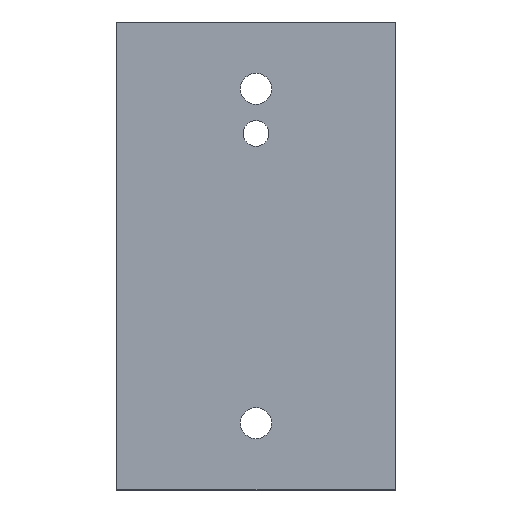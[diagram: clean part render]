
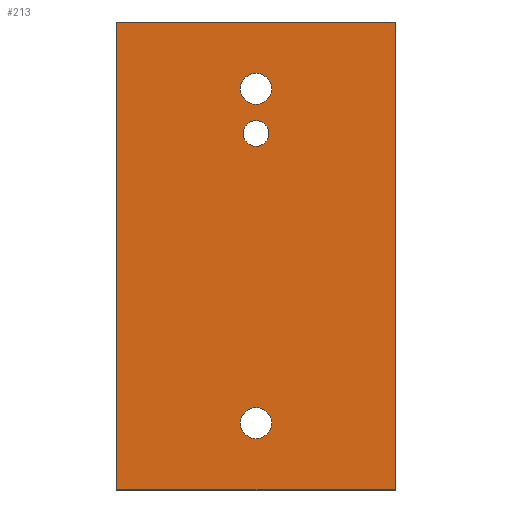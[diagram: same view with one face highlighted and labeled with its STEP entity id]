
A CAD part, top view. The second image highlights one B-rep face of the part: STEP entity #213.
In plain terms, the highlighted planar face has unit normal (0, 0, 1).
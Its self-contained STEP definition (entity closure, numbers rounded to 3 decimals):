
#24 = VERTEX_POINT('',#25);
#25 = CARTESIAN_POINT('',(-25.,-42.,6.));
#32 = PLANE('',#33);
#33 = AXIS2_PLACEMENT_3D('',#34,#35,#36);
#34 = CARTESIAN_POINT('',(-25.,-42.,0.));
#35 = DIRECTION('',(1.,0.,0.));
#36 = DIRECTION('',(0.,0.,1.));
#44 = PLANE('',#45);
#45 = AXIS2_PLACEMENT_3D('',#46,#47,#48);
#46 = CARTESIAN_POINT('',(-25.,-42.,0.));
#47 = DIRECTION('',(0.,1.,0.));
#48 = DIRECTION('',(0.,0.,1.));
#85 = VERTEX_POINT('',#86);
#86 = CARTESIAN_POINT('',(-25.,42.,6.));
#100 = PLANE('',#101);
#101 = AXIS2_PLACEMENT_3D('',#102,#103,#104);
#102 = CARTESIAN_POINT('',(-25.,42.,0.));
#103 = DIRECTION('',(0.,1.,0.));
#104 = DIRECTION('',(0.,0.,1.));
#112 = EDGE_CURVE('',#24,#85,#113,.T.);
#113 = SURFACE_CURVE('',#114,(#118,#125),.PCURVE_S1.);
#114 = LINE('',#115,#116);
#115 = CARTESIAN_POINT('',(-25.,-42.,6.));
#116 = VECTOR('',#117,1.);
#117 = DIRECTION('',(0.,1.,0.));
#118 = PCURVE('',#32,#119);
#119 = DEFINITIONAL_REPRESENTATION('',(#120),#124);
#120 = LINE('',#121,#122);
#121 = CARTESIAN_POINT('',(6.,0.));
#122 = VECTOR('',#123,1.);
#123 = DIRECTION('',(0.,-1.));
#124 = ( GEOMETRIC_REPRESENTATION_CONTEXT(2) 
PARAMETRIC_REPRESENTATION_CONTEXT() REPRESENTATION_CONTEXT('2D SPACE',''
  ) );
#125 = PCURVE('',#126,#131);
#126 = PLANE('',#127);
#127 = AXIS2_PLACEMENT_3D('',#128,#129,#130);
#128 = CARTESIAN_POINT('',(-25.,-42.,6.));
#129 = DIRECTION('',(0.,0.,1.));
#130 = DIRECTION('',(1.,0.,0.));
#131 = DEFINITIONAL_REPRESENTATION('',(#132),#136);
#132 = LINE('',#133,#134);
#133 = CARTESIAN_POINT('',(0.,0.));
#134 = VECTOR('',#135,1.);
#135 = DIRECTION('',(0.,1.));
#136 = ( GEOMETRIC_REPRESENTATION_CONTEXT(2) 
PARAMETRIC_REPRESENTATION_CONTEXT() REPRESENTATION_CONTEXT('2D SPACE',''
  ) );
#165 = EDGE_CURVE('',#24,#166,#168,.T.);
#166 = VERTEX_POINT('',#167);
#167 = CARTESIAN_POINT('',(25.,-42.,6.));
#168 = SURFACE_CURVE('',#169,(#173,#180),.PCURVE_S1.);
#169 = LINE('',#170,#171);
#170 = CARTESIAN_POINT('',(-25.,-42.,6.));
#171 = VECTOR('',#172,1.);
#172 = DIRECTION('',(1.,0.,0.));
#173 = PCURVE('',#44,#174);
#174 = DEFINITIONAL_REPRESENTATION('',(#175),#179);
#175 = LINE('',#176,#177);
#176 = CARTESIAN_POINT('',(6.,0.));
#177 = VECTOR('',#178,1.);
#178 = DIRECTION('',(0.,1.));
#179 = ( GEOMETRIC_REPRESENTATION_CONTEXT(2) 
PARAMETRIC_REPRESENTATION_CONTEXT() REPRESENTATION_CONTEXT('2D SPACE',''
  ) );
#180 = PCURVE('',#126,#181);
#181 = DEFINITIONAL_REPRESENTATION('',(#182),#186);
#182 = LINE('',#183,#184);
#183 = CARTESIAN_POINT('',(0.,0.));
#184 = VECTOR('',#185,1.);
#185 = DIRECTION('',(1.,0.));
#186 = ( GEOMETRIC_REPRESENTATION_CONTEXT(2) 
PARAMETRIC_REPRESENTATION_CONTEXT() REPRESENTATION_CONTEXT('2D SPACE',''
  ) );
#202 = PLANE('',#203);
#203 = AXIS2_PLACEMENT_3D('',#204,#205,#206);
#204 = CARTESIAN_POINT('',(25.,-42.,0.));
#205 = DIRECTION('',(1.,0.,0.));
#206 = DIRECTION('',(0.,0.,1.));
#213 = ADVANCED_FACE('',(#214,#262,#297,#332),#126,.T.);
#214 = FACE_BOUND('',#215,.T.);
#215 = EDGE_LOOP('',(#216,#217,#218,#241));
#216 = ORIENTED_EDGE('',*,*,#112,.F.);
#217 = ORIENTED_EDGE('',*,*,#165,.T.);
#218 = ORIENTED_EDGE('',*,*,#219,.T.);
#219 = EDGE_CURVE('',#166,#220,#222,.T.);
#220 = VERTEX_POINT('',#221);
#221 = CARTESIAN_POINT('',(25.,42.,6.));
#222 = SURFACE_CURVE('',#223,(#227,#234),.PCURVE_S1.);
#223 = LINE('',#224,#225);
#224 = CARTESIAN_POINT('',(25.,-42.,6.));
#225 = VECTOR('',#226,1.);
#226 = DIRECTION('',(0.,1.,0.));
#227 = PCURVE('',#126,#228);
#228 = DEFINITIONAL_REPRESENTATION('',(#229),#233);
#229 = LINE('',#230,#231);
#230 = CARTESIAN_POINT('',(50.,0.));
#231 = VECTOR('',#232,1.);
#232 = DIRECTION('',(0.,1.));
#233 = ( GEOMETRIC_REPRESENTATION_CONTEXT(2) 
PARAMETRIC_REPRESENTATION_CONTEXT() REPRESENTATION_CONTEXT('2D SPACE',''
  ) );
#234 = PCURVE('',#202,#235);
#235 = DEFINITIONAL_REPRESENTATION('',(#236),#240);
#236 = LINE('',#237,#238);
#237 = CARTESIAN_POINT('',(6.,0.));
#238 = VECTOR('',#239,1.);
#239 = DIRECTION('',(0.,-1.));
#240 = ( GEOMETRIC_REPRESENTATION_CONTEXT(2) 
PARAMETRIC_REPRESENTATION_CONTEXT() REPRESENTATION_CONTEXT('2D SPACE',''
  ) );
#241 = ORIENTED_EDGE('',*,*,#242,.F.);
#242 = EDGE_CURVE('',#85,#220,#243,.T.);
#243 = SURFACE_CURVE('',#244,(#248,#255),.PCURVE_S1.);
#244 = LINE('',#245,#246);
#245 = CARTESIAN_POINT('',(-25.,42.,6.));
#246 = VECTOR('',#247,1.);
#247 = DIRECTION('',(1.,0.,0.));
#248 = PCURVE('',#126,#249);
#249 = DEFINITIONAL_REPRESENTATION('',(#250),#254);
#250 = LINE('',#251,#252);
#251 = CARTESIAN_POINT('',(0.,84.));
#252 = VECTOR('',#253,1.);
#253 = DIRECTION('',(1.,0.));
#254 = ( GEOMETRIC_REPRESENTATION_CONTEXT(2) 
PARAMETRIC_REPRESENTATION_CONTEXT() REPRESENTATION_CONTEXT('2D SPACE',''
  ) );
#255 = PCURVE('',#100,#256);
#256 = DEFINITIONAL_REPRESENTATION('',(#257),#261);
#257 = LINE('',#258,#259);
#258 = CARTESIAN_POINT('',(6.,0.));
#259 = VECTOR('',#260,1.);
#260 = DIRECTION('',(0.,1.));
#261 = ( GEOMETRIC_REPRESENTATION_CONTEXT(2) 
PARAMETRIC_REPRESENTATION_CONTEXT() REPRESENTATION_CONTEXT('2D SPACE',''
  ) );
#262 = FACE_BOUND('',#263,.T.);
#263 = EDGE_LOOP('',(#264));
#264 = ORIENTED_EDGE('',*,*,#265,.T.);
#265 = EDGE_CURVE('',#266,#266,#268,.T.);
#266 = VERTEX_POINT('',#267);
#267 = CARTESIAN_POINT('',(2.8,-30.,6.));
#268 = SURFACE_CURVE('',#269,(#274,#285),.PCURVE_S1.);
#269 = CIRCLE('',#270,2.8);
#270 = AXIS2_PLACEMENT_3D('',#271,#272,#273);
#271 = CARTESIAN_POINT('',(0.,-30.,6.));
#272 = DIRECTION('',(0.,0.,-1.));
#273 = DIRECTION('',(1.,0.,0.));
#274 = PCURVE('',#126,#275);
#275 = DEFINITIONAL_REPRESENTATION('',(#276),#284);
#276 = ( BOUNDED_CURVE() B_SPLINE_CURVE(2,(#277,#278,#279,#280,#281,#282
,#283),.UNSPECIFIED.,.T.,.F.) B_SPLINE_CURVE_WITH_KNOTS((1,2,2,2,2,1),(
    -2.094,0.,2.094,4.189,6.283,
8.378),.UNSPECIFIED.) CURVE() GEOMETRIC_REPRESENTATION_ITEM() 
RATIONAL_B_SPLINE_CURVE((1.,0.5,1.,0.5,1.,0.5,1.)) REPRESENTATION_ITEM(
  '') );
#277 = CARTESIAN_POINT('',(27.8,12.));
#278 = CARTESIAN_POINT('',(27.8,7.15));
#279 = CARTESIAN_POINT('',(23.6,9.575));
#280 = CARTESIAN_POINT('',(19.4,12.));
#281 = CARTESIAN_POINT('',(23.6,14.425));
#282 = CARTESIAN_POINT('',(27.8,16.85));
#283 = CARTESIAN_POINT('',(27.8,12.));
#284 = ( GEOMETRIC_REPRESENTATION_CONTEXT(2) 
PARAMETRIC_REPRESENTATION_CONTEXT() REPRESENTATION_CONTEXT('2D SPACE',''
  ) );
#285 = PCURVE('',#286,#291);
#286 = CYLINDRICAL_SURFACE('',#287,2.8);
#287 = AXIS2_PLACEMENT_3D('',#288,#289,#290);
#288 = CARTESIAN_POINT('',(0.,-30.,-1.));
#289 = DIRECTION('',(-0.,-0.,-1.));
#290 = DIRECTION('',(1.,0.,0.));
#291 = DEFINITIONAL_REPRESENTATION('',(#292),#296);
#292 = LINE('',#293,#294);
#293 = CARTESIAN_POINT('',(-6.283,-7.));
#294 = VECTOR('',#295,1.);
#295 = DIRECTION('',(1.,-0.));
#296 = ( GEOMETRIC_REPRESENTATION_CONTEXT(2) 
PARAMETRIC_REPRESENTATION_CONTEXT() REPRESENTATION_CONTEXT('2D SPACE',''
  ) );
#297 = FACE_BOUND('',#298,.T.);
#298 = EDGE_LOOP('',(#299));
#299 = ORIENTED_EDGE('',*,*,#300,.T.);
#300 = EDGE_CURVE('',#301,#301,#303,.T.);
#301 = VERTEX_POINT('',#302);
#302 = CARTESIAN_POINT('',(2.3,22.,6.));
#303 = SURFACE_CURVE('',#304,(#309,#320),.PCURVE_S1.);
#304 = CIRCLE('',#305,2.3);
#305 = AXIS2_PLACEMENT_3D('',#306,#307,#308);
#306 = CARTESIAN_POINT('',(0.,22.,6.));
#307 = DIRECTION('',(0.,0.,-1.));
#308 = DIRECTION('',(1.,0.,0.));
#309 = PCURVE('',#126,#310);
#310 = DEFINITIONAL_REPRESENTATION('',(#311),#319);
#311 = ( BOUNDED_CURVE() B_SPLINE_CURVE(2,(#312,#313,#314,#315,#316,#317
,#318),.UNSPECIFIED.,.T.,.F.) B_SPLINE_CURVE_WITH_KNOTS((1,2,2,2,2,1),(
    -2.094,0.,2.094,4.189,6.283,
8.378),.UNSPECIFIED.) CURVE() GEOMETRIC_REPRESENTATION_ITEM() 
RATIONAL_B_SPLINE_CURVE((1.,0.5,1.,0.5,1.,0.5,1.)) REPRESENTATION_ITEM(
  '') );
#312 = CARTESIAN_POINT('',(27.3,64.));
#313 = CARTESIAN_POINT('',(27.3,60.016));
#314 = CARTESIAN_POINT('',(23.85,62.008));
#315 = CARTESIAN_POINT('',(20.4,64.));
#316 = CARTESIAN_POINT('',(23.85,65.992));
#317 = CARTESIAN_POINT('',(27.3,67.984));
#318 = CARTESIAN_POINT('',(27.3,64.));
#319 = ( GEOMETRIC_REPRESENTATION_CONTEXT(2) 
PARAMETRIC_REPRESENTATION_CONTEXT() REPRESENTATION_CONTEXT('2D SPACE',''
  ) );
#320 = PCURVE('',#321,#326);
#321 = CYLINDRICAL_SURFACE('',#322,2.3);
#322 = AXIS2_PLACEMENT_3D('',#323,#324,#325);
#323 = CARTESIAN_POINT('',(0.,22.,-1.));
#324 = DIRECTION('',(-0.,-0.,-1.));
#325 = DIRECTION('',(1.,0.,0.));
#326 = DEFINITIONAL_REPRESENTATION('',(#327),#331);
#327 = LINE('',#328,#329);
#328 = CARTESIAN_POINT('',(-6.283,-7.));
#329 = VECTOR('',#330,1.);
#330 = DIRECTION('',(1.,-0.));
#331 = ( GEOMETRIC_REPRESENTATION_CONTEXT(2) 
PARAMETRIC_REPRESENTATION_CONTEXT() REPRESENTATION_CONTEXT('2D SPACE',''
  ) );
#332 = FACE_BOUND('',#333,.T.);
#333 = EDGE_LOOP('',(#334));
#334 = ORIENTED_EDGE('',*,*,#335,.T.);
#335 = EDGE_CURVE('',#336,#336,#338,.T.);
#336 = VERTEX_POINT('',#337);
#337 = CARTESIAN_POINT('',(2.8,30.,6.));
#338 = SURFACE_CURVE('',#339,(#344,#355),.PCURVE_S1.);
#339 = CIRCLE('',#340,2.8);
#340 = AXIS2_PLACEMENT_3D('',#341,#342,#343);
#341 = CARTESIAN_POINT('',(0.,30.,6.));
#342 = DIRECTION('',(0.,0.,-1.));
#343 = DIRECTION('',(1.,0.,0.));
#344 = PCURVE('',#126,#345);
#345 = DEFINITIONAL_REPRESENTATION('',(#346),#354);
#346 = ( BOUNDED_CURVE() B_SPLINE_CURVE(2,(#347,#348,#349,#350,#351,#352
,#353),.UNSPECIFIED.,.T.,.F.) B_SPLINE_CURVE_WITH_KNOTS((1,2,2,2,2,1),(
    -2.094,0.,2.094,4.189,6.283,
8.378),.UNSPECIFIED.) CURVE() GEOMETRIC_REPRESENTATION_ITEM() 
RATIONAL_B_SPLINE_CURVE((1.,0.5,1.,0.5,1.,0.5,1.)) REPRESENTATION_ITEM(
  '') );
#347 = CARTESIAN_POINT('',(27.8,72.));
#348 = CARTESIAN_POINT('',(27.8,67.15));
#349 = CARTESIAN_POINT('',(23.6,69.575));
#350 = CARTESIAN_POINT('',(19.4,72.));
#351 = CARTESIAN_POINT('',(23.6,74.425));
#352 = CARTESIAN_POINT('',(27.8,76.85));
#353 = CARTESIAN_POINT('',(27.8,72.));
#354 = ( GEOMETRIC_REPRESENTATION_CONTEXT(2) 
PARAMETRIC_REPRESENTATION_CONTEXT() REPRESENTATION_CONTEXT('2D SPACE',''
  ) );
#355 = PCURVE('',#356,#361);
#356 = CYLINDRICAL_SURFACE('',#357,2.8);
#357 = AXIS2_PLACEMENT_3D('',#358,#359,#360);
#358 = CARTESIAN_POINT('',(0.,30.,-1.));
#359 = DIRECTION('',(-0.,-0.,-1.));
#360 = DIRECTION('',(1.,0.,0.));
#361 = DEFINITIONAL_REPRESENTATION('',(#362),#366);
#362 = LINE('',#363,#364);
#363 = CARTESIAN_POINT('',(-6.283,-7.));
#364 = VECTOR('',#365,1.);
#365 = DIRECTION('',(1.,-0.));
#366 = ( GEOMETRIC_REPRESENTATION_CONTEXT(2) 
PARAMETRIC_REPRESENTATION_CONTEXT() REPRESENTATION_CONTEXT('2D SPACE',''
  ) );
